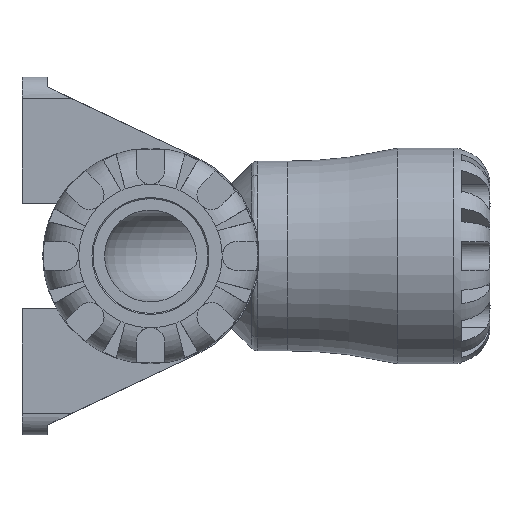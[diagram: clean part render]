
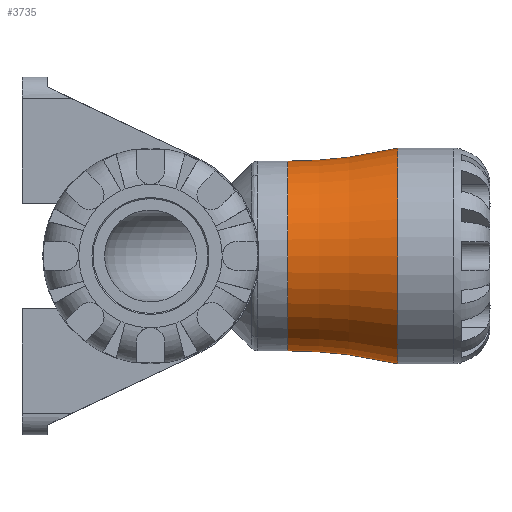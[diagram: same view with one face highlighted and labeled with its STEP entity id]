
A CAD part, left-side view. The second image highlights one B-rep face of the part: STEP entity #3735.
In plain terms, the highlighted toroidal (fillet/blend) face has major radius 123.199 mm and minor radius 102.519 mm.
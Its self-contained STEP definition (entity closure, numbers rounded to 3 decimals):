
#20=TOROIDAL_SURFACE('',#4110,123.199,102.519);
#165=FACE_BOUND('',#729,.T.);
#494=FACE_OUTER_BOUND('',#728,.T.);
#728=EDGE_LOOP('',(#3207));
#729=EDGE_LOOP('',(#3208));
#1250=CIRCLE('',#3836,20.68);
#1378=CIRCLE('',#4111,23.5);
#1472=VERTEX_POINT('',#5515);
#1699=VERTEX_POINT('',#7735);
#1849=EDGE_CURVE('',#1472,#1472,#1250,.T.);
#2206=EDGE_CURVE('',#1699,#1699,#1378,.T.);
#3207=ORIENTED_EDGE('',*,*,#2206,.F.);
#3208=ORIENTED_EDGE('',*,*,#1849,.T.);
#3735=ADVANCED_FACE('',(#494,#165),#20,.F.);
#3836=AXIS2_PLACEMENT_3D('',#5516,#4381,#4382);
#4110=AXIS2_PLACEMENT_3D('',#7734,#5059,#5060);
#4111=AXIS2_PLACEMENT_3D('',#7736,#5061,#5062);
#4381=DIRECTION('center_axis',(0.,-1.,0.));
#4382=DIRECTION('ref_axis',(0.,0.,1.));
#5059=DIRECTION('center_axis',(0.,-1.,0.));
#5060=DIRECTION('ref_axis',(0.,0.,1.));
#5061=DIRECTION('center_axis',(0.,-1.,0.));
#5062=DIRECTION('ref_axis',(0.,0.,1.));
#5515=CARTESIAN_POINT('',(20.68,-29.96,0.));
#5516=CARTESIAN_POINT('Origin',(0.,-29.96,0.));
#7734=CARTESIAN_POINT('Origin',(0.,-29.96,0.));
#7735=CARTESIAN_POINT('',(23.5,-53.84,0.));
#7736=CARTESIAN_POINT('Origin',(0.,-53.84,0.));
